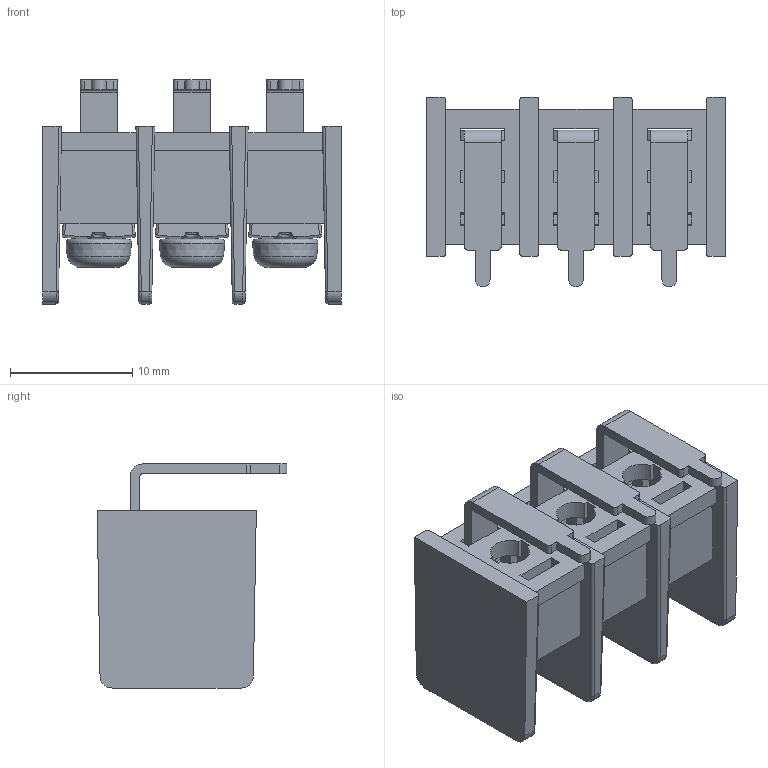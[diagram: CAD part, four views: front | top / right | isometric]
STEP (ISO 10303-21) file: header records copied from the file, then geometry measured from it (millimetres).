
FILE_DESCRIPTION((''),'2;1');
FILE_NAME('3PIN','2021-04-21T',('hanke'),(''),'CREO PARAMETRIC BY PTC INC, 2016260','CREO PARAMETRIC BY PTC INC, 2016260','');
FILE_SCHEMA(('CONFIG_CONTROL_DESIGN'));
Products named in the file (1): 3PIN
Bounding box: 24.36 x 15.5 x 18.3 mm (x, y, z)
Volume: 2278 mm3; surface area: 4026 mm2
Topology: 1 solids, 10 shells, 986 faces, 2796 edges, 1815 vertices
Faces by surface type: plane 558, cylinder 233, bspline 81, torus 66, sphere 30, cone 18
Entity records: 44066 total; most frequent: CARTESIAN_POINT 19327, ORIENTED_EDGE 5580, DIRECTION 4655, EDGE_CURVE 2790, VERTEX_POINT 1815, AXIS2_PLACEMENT_3D 1596, VECTOR 1463, LINE 1463
